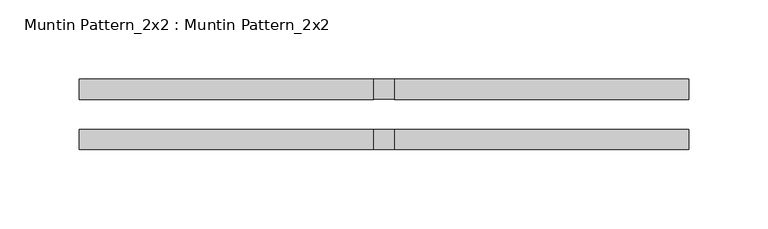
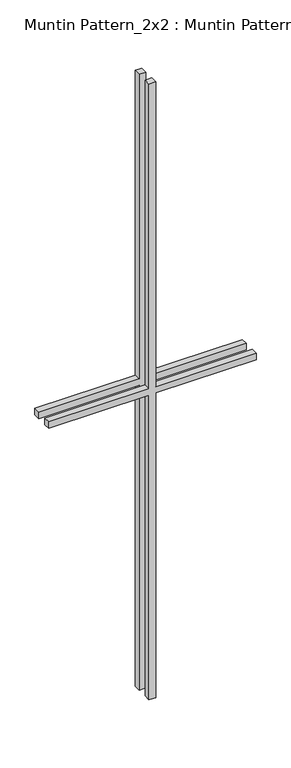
"""IFC4 building model written with IfcOpenShell, lengths in millimetres: proxy geometry, Muntin Pattern_2x2 : Muntin Pattern_2x2."""

import ifcopenshell
import ifcopenshell.guid

model = None  # the IFC model being written
_history = None  # IfcOwnerHistory: only IFC2X3 demands one
_inside = {}  # id of a spatial element -> (the spatial element, [elements in it])
_under = {}  # id of a project, library or spatial element -> (it, [spatial elements below it])
_declared = {}  # id of a project -> (the project, [libraries it declares])
_typed = {}  # id of a type object -> (the type object, [elements of that type])
_made_of = {}  # id of a material, layer set ... -> (it, [elements and type objects made of it])


def new_model(schema):
    """Start an empty IFC model of exactly this schema.

    Asked for "IFC4X3", IfcOpenShell would pick the latest addendum, in which some entities
    have other attributes; the version numbers below select the first issue.
    IFC2X3 requires an IfcOwnerHistory on every rooted entity: one is made here for all.
    """
    global model, _history
    if schema == "IFC4X3":
        model = ifcopenshell.file(schema_version=(4, 3, 0, 0))
    else:
        model = ifcopenshell.file(schema=schema)
    _inside.clear()
    _under.clear()
    _declared.clear()
    _typed.clear()
    _made_of.clear()
    _history = None
    if model.schema == "IFC2X3":
        org = make("IfcOrganization", Name="unknown")
        user = make(
            "IfcPersonAndOrganization",
            ThePerson=make("IfcPerson", FamilyName="unknown"),
            TheOrganization=org,
        )
        app = make(
            "IfcApplication",
            ApplicationDeveloper=org,
            Version="unknown",
            ApplicationFullName="unknown",
            ApplicationIdentifier="unknown",
        )
        _history = make(
            "IfcOwnerHistory",
            OwningUser=user,
            OwningApplication=app,
            ChangeAction="ADDED",
            CreationDate=0,
        )
    return model


def make(cls, **values):
    """One entity of the class cls with the attributes given. An attribute that is None is left unset."""
    return model.create_entity(
        cls, **{name: value for name, value in values.items() if value is not None}
    )


def rooted(cls, **values):
    """An entity with a GlobalId (a new one), such as an element, a storey or a relation."""
    return make(cls, GlobalId=ifcopenshell.guid.new(), OwnerHistory=_history, **values)


def si_unit(unit_type, name, prefix=None):
    """IfcSIUnit, for example si_unit("LENGTHUNIT", "METRE", prefix="MILLI")."""
    return make("IfcSIUnit", UnitType=unit_type, Prefix=prefix, Name=name)


def assignment(units):
    """IfcUnitAssignment: the units of a project."""
    return None if units is None else make("IfcUnitAssignment", Units=units)


def point(xyz):
    """IfcCartesianPoint."""
    return None if xyz is None else make("IfcCartesianPoint", Coordinates=xyz)


def direction(xyz):
    """IfcDirection."""
    return None if xyz is None else make("IfcDirection", DirectionRatios=xyz)


def frame(location, z_axis=None, x_axis=None):
    """IfcAxis2Placement3D, a coordinate frame: its origin and axes. An axis left out is left unset."""
    return make(
        "IfcAxis2Placement3D",
        Location=point(location),
        Axis=direction(z_axis),
        RefDirection=direction(x_axis),
    )


def origin():
    """The frame at (0, 0, 0) with its axes left unset."""
    return frame((0.0, 0.0, 0.0))


def place(relative_to, where):
    """IfcLocalPlacement: puts the frame where relative to a parent placement (None: the world)."""
    return make(
        "IfcLocalPlacement", PlacementRelTo=relative_to, RelativePlacement=where
    )


def context(
    kind, dimensions, precision=None, world=None, true_north=None, identifier=None
):
    """IfcGeometricRepresentationContext, for example the 3D "Model" context."""
    return make(
        "IfcGeometricRepresentationContext",
        ContextIdentifier=identifier,
        ContextType=kind,
        CoordinateSpaceDimension=dimensions,
        Precision=precision,
        WorldCoordinateSystem=world,
        TrueNorth=true_north,
    )


def project(units=None, contexts=None):
    """IfcProject with its units and contexts."""
    return rooted(
        "IfcProject",
        Name="project",
        RepresentationContexts=contexts,
        UnitsInContext=assignment(units),
    )


def spatial(cls, under=None, at=None, **own):
    """A site, building, storey or space (cls), placed at a placement, below another one or the project."""
    s = rooted(cls, ObjectPlacement=at, **own)
    if under is not None:
        _under.setdefault(under.id(), (under, []))[1].append(s)
    return s


def polyline(points):
    """IfcPolyline through the points."""
    return make("IfcPolyline", Points=[point(p) for p in points])


def outline(outer, holes=None, kind="AREA"):
    """IfcArbitraryClosedProfileDef: a profile drawn as a closed curve; with holes, ...WithVoids."""
    if holes is None:
        return make("IfcArbitraryClosedProfileDef", ProfileType=kind, OuterCurve=outer)
    return make(
        "IfcArbitraryProfileDefWithVoids",
        ProfileType=kind,
        OuterCurve=outer,
        InnerCurves=holes,
    )


def extrude(swept, where, along, depth):
    """IfcExtrudedAreaSolid: the profile swept, set in the frame where, extruded along a direction by depth."""
    return make(
        "IfcExtrudedAreaSolid",
        SweptArea=swept,
        Position=where,
        ExtrudedDirection=direction(along),
        Depth=depth,
    )


def shape(context_of_items, identifier, shape_type, items):
    """IfcShapeRepresentation: the items that make up one representation, for example the "Body"."""
    return make(
        "IfcShapeRepresentation",
        ContextOfItems=context_of_items,
        RepresentationIdentifier=identifier,
        RepresentationType=shape_type,
        Items=items,
    )


def source(mapping_origin, context_of_items, identifier, shape_type, items):
    """IfcRepresentationMap: a shape defined once, which mapped items show again and again."""
    return make(
        "IfcRepresentationMap",
        MappingOrigin=mapping_origin,
        MappedRepresentation=shape(context_of_items, identifier, shape_type, items),
    )


def transform(
    local_origin,
    x_axis=None,
    y_axis=None,
    z_axis=None,
    scale=None,
    scale2=None,
    scale3=None,
    uniform=True,
):
    """IfcCartesianTransformationOperator3D, or its non-uniform kind. x_axis, y_axis, z_axis: its Axis1, 2, 3."""
    if uniform:
        return make(
            "IfcCartesianTransformationOperator3D",
            Axis1=direction(x_axis),
            Axis2=direction(y_axis),
            LocalOrigin=point(local_origin),
            Scale=scale,
            Axis3=direction(z_axis),
        )
    return make(
        "IfcCartesianTransformationOperator3DnonUniform",
        Axis1=direction(x_axis),
        Axis2=direction(y_axis),
        LocalOrigin=point(local_origin),
        Scale=scale,
        Axis3=direction(z_axis),
        Scale2=scale2,
        Scale3=scale3,
    )


def mapped(mapping_source, mapping_target):
    """IfcMappedItem: shows the shape of a source again, moved by a transform."""
    return make(
        "IfcMappedItem", MappingSource=mapping_source, MappingTarget=mapping_target
    )


def made_of(thing, what):
    """Note that an element or type object is made of a material, layer set ...; save() writes the relation."""
    if what is not None:
        _made_of.setdefault(what.id(), (what, []))[1].append(thing)
    return thing


def element(
    cls,
    number,
    at=None,
    inside=None,
    cuts=None,
    type_object=None,
    material=None,
    context=None,
    identifier="Body",
    shape_type=None,
    held_by="IfcProductDefinitionShape",
    body=None,
    shapes=None,
    **own,
):
    """One element of the class cls, such as IfcWall. Its Tag is "e" and its number.

    at: its placement. inside: the storey or other place that contains it. cuts: it is an
    opening in that element (IfcRelVoidsElement). A single representation is given by context,
    identifier, shape_type and body (its items); several are given by shapes. held_by: the class
    of the entity that holds the representations. save() writes the other relations.
    """
    e = rooted(cls, Tag="e%d" % number, ObjectPlacement=at, **own)
    if body is not None:
        shapes = [shape(context, identifier, shape_type, body)]
    if shapes is not None:
        e.Representation = make(held_by, Representations=shapes)
    if inside is not None:
        _inside.setdefault(inside.id(), (inside, []))[1].append(e)
    if cuts is not None:
        rooted(
            "IfcRelVoidsElement", RelatingBuildingElement=cuts, RelatedOpeningElement=e
        )
    if type_object is not None:
        _typed.setdefault(type_object.id(), (type_object, []))[1].append(e)
    return made_of(e, material)


def aggregate(whole, parts):
    """IfcRelAggregates: a whole, such as a stair, and the parts it consists of."""
    return rooted("IfcRelAggregates", RelatingObject=whole, RelatedObjects=parts)


def save(model, path):
    """Write the relations noted so far, then the file.

    IfcRelAggregates (storeys below a building ...), IfcRelContainedInSpatialStructure (elements
    in a storey), IfcRelDefinesByType, IfcRelAssociatesMaterial and IfcRelDeclares: one each for
    every whole, place, type object, material and project.
    """
    for whole, parts in _under.values():
        aggregate(whole, parts)
    for where, things in _inside.values():
        rooted(
            "IfcRelContainedInSpatialStructure",
            RelatedElements=things,
            RelatingStructure=where,
        )
    for kind, things in _typed.values():
        rooted("IfcRelDefinesByType", RelatedObjects=things, RelatingType=kind)
    for what, things in _made_of.values():
        rooted("IfcRelAssociatesMaterial", RelatedObjects=things, RelatingMaterial=what)
    for by, libraries in _declared.values():
        rooted("IfcRelDeclares", RelatingContext=by, RelatedDefinitions=libraries)
    model.write(path)


def muntin_pattern_2x2_muntin_pattern_2x2_88bf7f41(model_context):
    return source(origin(), model_context, "Body", "SweptSolid", [
        extrude(outline(polyline([(609.6, -6.35), (609.6, -192.0875), (596.9, -192.0875), (596.9, -6.35), (0.0, -6.35), (0.0, 6.35), (596.9, 6.35), (596.9, 192.0875), (609.6, 192.0875), (609.6, 6.35), (1206.5, 6.35), (1206.5, -6.35), (609.6, -6.35)])), frame((0.0, 9.525, 0.0), z_axis=(0.0, 1.0, 0.0), x_axis=(0.0, 0.0, 1.0)), (0.0, 0.0, 1.0), 12.7),
        extrude(outline(polyline([(609.6, -6.35), (609.6, -192.0875), (596.9, -192.0875), (596.9, -6.35), (0.0, -6.35), (0.0, 6.35), (596.9, 6.35), (596.9, 192.0875), (609.6, 192.0875), (609.6, 6.35), (1206.5, 6.35), (1206.5, -6.35), (609.6, -6.35)])), frame((0.0, -22.225, 0.0), z_axis=(0.0, 1.0, 0.0), x_axis=(0.0, 0.0, 1.0)), (0.0, 0.0, 1.0), 12.7),
    ])


if __name__ == "__main__":
    model = new_model("IFC4")
    model_context = context("Model", 3, world=origin())
    ifc_project = project(units=[si_unit("LENGTHUNIT", "METRE", prefix="MILLI")], contexts=[model_context])
    site = spatial("IfcSite", under=ifc_project)
    building = spatial("IfcBuilding", under=site)
    placement = place(None, origin())
    muntin_pattern_2x2_muntin_pattern_2x2_shape = muntin_pattern_2x2_muntin_pattern_2x2_88bf7f41(model_context)
    element("IfcBuildingElementProxy", 1, Name="Muntin Pattern_2x2 : Muntin Pattern_2x2", ObjectType="Muntin Pattern_2x2 : Muntin Pattern_2x2", at=placement, inside=building, context=model_context, shape_type="MappedRepresentation", body=[
        mapped(muntin_pattern_2x2_muntin_pattern_2x2_shape, transform((0.0, 0.0, 0.0), x_axis=(1.0, 0.0, 0.0), y_axis=(0.0, 1.0, 0.0), z_axis=(0.0, 0.0, 1.0))),
    ])
    save(model, "model.ifc")
